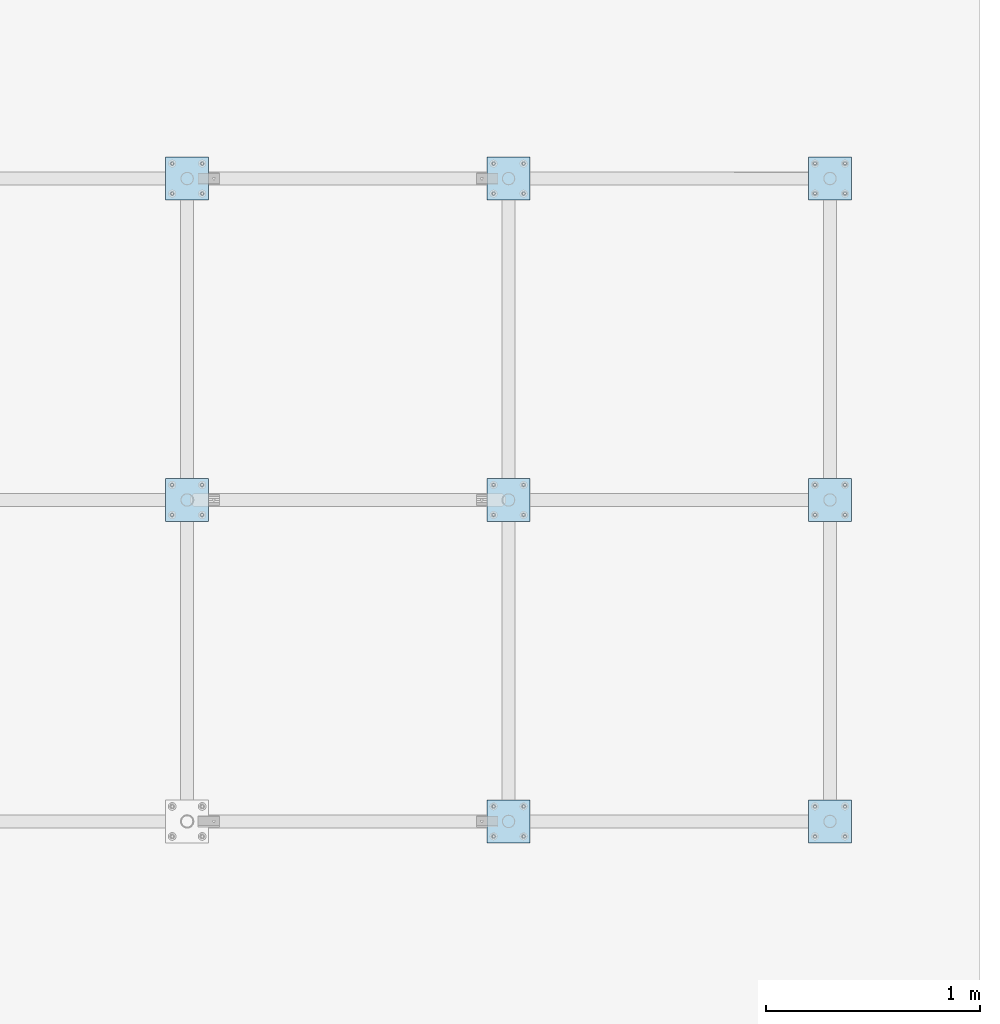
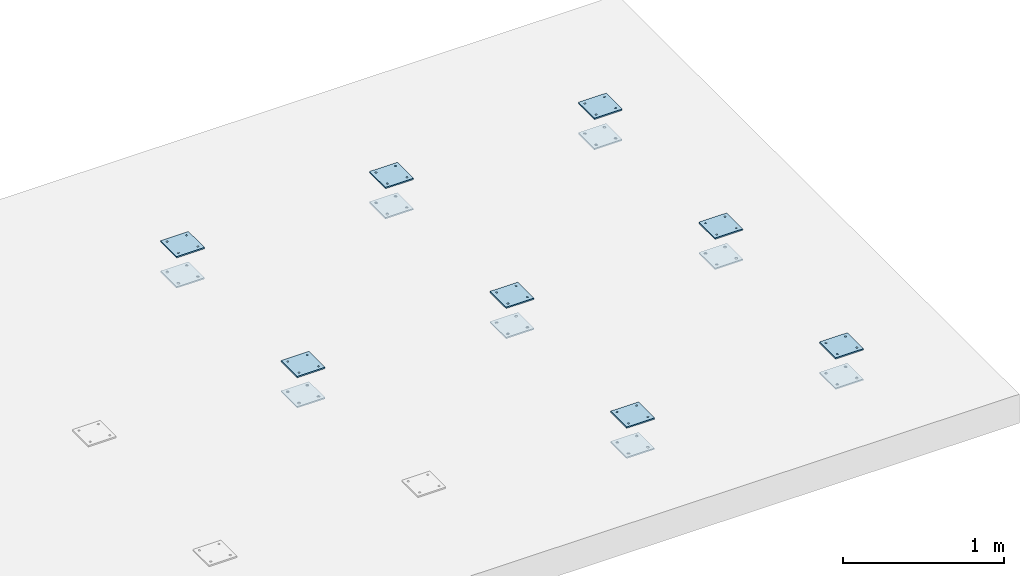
# One storey, part 6 of 30: 16 plates, 64 openings.
"""IFC2X3 building model written with IfcOpenShell, lengths in millimetres."""

from ifc_helpers import new_model, entity, si_unit, converted_unit, frame, frame_2d, origin, origin_with_axes, place, context, project, spatial, polyline, circle, outline, extrude, material, layer, layer_set, element, save


model = new_model("IFC2X3")

# Units and contexts
model_context = context("Model", 3, precision=1e-09, world=origin_with_axes())
ifc_project = project(units=[si_unit("LENGTHUNIT", "METRE", prefix="MILLI"), si_unit("AREAUNIT", "SQUARE_METRE"), si_unit("VOLUMEUNIT", "CUBIC_METRE"), converted_unit("PLANEANGLEUNIT", "DEGREE", entity("IfcPlaneAngleMeasure", 0.01745329), si_unit("PLANEANGLEUNIT", "RADIAN"), dimensions=[0, 0, 0, 0, 0, 0, 0])], contexts=[model_context])

# Site, building, storey
site_placement = place(None, origin_with_axes())
site = spatial("IfcSite", under=ifc_project, at=site_placement, Name="M?nsinger Stra?e, 81477 M?nchen", CompositionType="ELEMENT")
building_placement = place(site_placement, origin_with_axes())
building = spatial("IfcBuilding", under=site, at=building_placement, Name="Struktur 1", CompositionType="ELEMENT")
storey_placement = place(building_placement, origin_with_axes())
storey = spatial("IfcBuildingStorey", under=building, at=storey_placement, Name="Default Storey", CompositionType="ELEMENT", Elevation=0.0)

# Plate, openings
ifc_material = material(Name="S235JR")
ifc_layer = layer(ifc_material, 10.0)
ifc_layer_set = layer_set([ifc_layer], Name="S235JR")
plate_1_placement = place(None, frame((7406.315117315, 2991.2632594, 6515.0), z_axis=(0.0, 0.0, -1.0), x_axis=(1.0, 0.0, 0.0)))
plate_1 = element("IfcPlate", 1, at=plate_1_placement, inside=storey, material=ifc_layer_set, Name="-", ObjectType="-", context=model_context, shape_type="SweptSolid", body=[
    extrude(outline(polyline([(-100.0, -100.0), (100.0, -100.0), (100.0, 100.0), (-100.0, 100.0), (-100.0, -100.0)])), origin_with_axes(), (0.0, 0.0, -1.0), 10.0),
])
opening_1_placement = place(plate_1_placement, frame((60.999, 70.0, 0.5), z_axis=(0.0, 0.0, 1.0), x_axis=(1.0, 0.0, 0.0)))
element("IfcOpeningElement", 2, at=opening_1_placement, cuts=plate_1, ObjectType="Opening", context=model_context, shape_type="SweptSolid", body=[
    extrude(circle(Radius=9.001, at=frame_2d((9.001, 0.0), x_axis=(1.0, 0.0))), origin(), (0.0, 0.0, -1.0), 11.0),
])
opening_2_placement = place(plate_1_placement, frame((-79.001, 70.0, 0.5), z_axis=(0.0, 0.0, 1.0), x_axis=(1.0, 0.0, 0.0)))
element("IfcOpeningElement", 3, at=opening_2_placement, cuts=plate_1, ObjectType="Opening", context=model_context, shape_type="SweptSolid", body=[
    extrude(circle(Radius=9.001, at=frame_2d((9.001, 0.0), x_axis=(1.0, 0.0))), origin(), (0.0, 0.0, -1.0), 11.0),
])
opening_3_placement = place(plate_1_placement, frame((60.999, -70.0, 0.5), z_axis=(0.0, 0.0, 1.0), x_axis=(1.0, 0.0, 0.0)))
element("IfcOpeningElement", 4, at=opening_3_placement, cuts=plate_1, ObjectType="Opening", context=model_context, shape_type="SweptSolid", body=[
    extrude(circle(Radius=9.001, at=frame_2d((9.001, 0.0), x_axis=(1.0, 0.0))), origin(), (0.0, 0.0, -1.0), 11.0),
])
opening_4_placement = place(plate_1_placement, frame((-79.001, -70.0, 0.5), z_axis=(0.0, 0.0, 1.0), x_axis=(1.0, 0.0, 0.0)))
element("IfcOpeningElement", 5, at=opening_4_placement, cuts=plate_1, ObjectType="Opening", context=model_context, shape_type="SweptSolid", body=[
    extrude(circle(Radius=9.001, at=frame_2d((9.001, 0.0), x_axis=(1.0, 0.0))), origin(), (0.0, 0.0, -1.0), 11.0),
])

plate_2_placement = place(None, frame((7406.315117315, 2991.2632594, 6745.0), z_axis=(0.0, 0.0, -1.0), x_axis=(1.0, 0.0, 0.0)))
plate_2 = element("IfcPlate", 6, at=plate_2_placement, inside=storey, material=ifc_layer_set, Name="-", ObjectType="-", context=model_context, shape_type="SweptSolid", body=[
    extrude(outline(polyline([(-100.0, -100.0), (100.0, -100.0), (100.0, 100.0), (-100.0, 100.0), (-100.0, -100.0)])), origin_with_axes(), (0.0, 0.0, -1.0), 10.0),
])
opening_5_placement = place(plate_2_placement, frame((63.749, 70.0, 0.5), z_axis=(0.0, 0.0, 1.0), x_axis=(1.0, 0.0, 0.0)))
element("IfcOpeningElement", 7, at=opening_5_placement, cuts=plate_2, ObjectType="Opening", context=model_context, shape_type="SweptSolid", body=[
    extrude(circle(Radius=6.251, at=frame_2d((6.251, 0.0), x_axis=(1.0, 0.0))), origin(), (0.0, 0.0, -1.0), 11.0),
])
opening_6_placement = place(plate_2_placement, frame((-76.251, 70.0, 0.5), z_axis=(0.0, 0.0, 1.0), x_axis=(1.0, 0.0, 0.0)))
element("IfcOpeningElement", 8, at=opening_6_placement, cuts=plate_2, ObjectType="Opening", context=model_context, shape_type="SweptSolid", body=[
    extrude(circle(Radius=6.251, at=frame_2d((6.251, 0.0), x_axis=(1.0, 0.0))), origin(), (0.0, 0.0, -1.0), 11.0),
])
opening_7_placement = place(plate_2_placement, frame((63.749, -70.0, 0.5), z_axis=(0.0, 0.0, 1.0), x_axis=(1.0, 0.0, 0.0)))
element("IfcOpeningElement", 9, at=opening_7_placement, cuts=plate_2, ObjectType="Opening", context=model_context, shape_type="SweptSolid", body=[
    extrude(circle(Radius=6.251, at=frame_2d((6.251, 0.0), x_axis=(1.0, 0.0))), origin(), (0.0, 0.0, -1.0), 11.0),
])
opening_8_placement = place(plate_2_placement, frame((-76.251, -70.0, 0.5), z_axis=(0.0, 0.0, 1.0), x_axis=(1.0, 0.0, 0.0)))
element("IfcOpeningElement", 10, at=opening_8_placement, cuts=plate_2, ObjectType="Opening", context=model_context, shape_type="SweptSolid", body=[
    extrude(circle(Radius=6.251, at=frame_2d((6.251, 0.0), x_axis=(1.0, 0.0))), origin(), (0.0, 0.0, -1.0), 11.0),
])

plate_3_placement = place(None, frame((8906.315117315, 4491.2632594, 6515.0), z_axis=(0.0, 0.0, 1.0), x_axis=(-1.0, 0.0, 0.0)))
plate_3 = element("IfcPlate", 11, at=plate_3_placement, inside=storey, material=ifc_layer_set, Name="-", ObjectType="-", context=model_context, shape_type="SweptSolid", body=[
    extrude(outline(polyline([(-100.0, -100.0), (100.0, -100.0), (100.0, 100.0), (-100.0, 100.0), (-100.0, -100.0)])), origin_with_axes(), (0.0, 0.0, 1.0), 10.0),
])
opening_9_placement = place(plate_3_placement, frame((-100.0, 100.0, -0.5), z_axis=(0.0, 0.0, 1.0), x_axis=(1.0, 0.0, 0.0)))
element("IfcOpeningElement", 12, at=opening_9_placement, cuts=plate_3, ObjectType="Opening", context=model_context, shape_type="SweptSolid", body=[
    extrude(circle(Radius=9.001, at=frame_2d((170.0, -30.0), x_axis=(1.0, 0.0))), origin(), (0.0, 0.0, 1.0), 11.0),
])
opening_10_placement = place(plate_3_placement, frame((-100.0, 100.0, -0.5), z_axis=(0.0, 0.0, 1.0), x_axis=(1.0, 0.0, 0.0)))
element("IfcOpeningElement", 13, at=opening_10_placement, cuts=plate_3, ObjectType="Opening", context=model_context, shape_type="SweptSolid", body=[
    extrude(circle(Radius=9.001, at=frame_2d((30.0, -30.0), x_axis=(1.0, 0.0))), origin(), (0.0, 0.0, 1.0), 11.0),
])
opening_11_placement = place(plate_3_placement, frame((-100.0, 100.0, -0.5), z_axis=(0.0, 0.0, 1.0), x_axis=(1.0, 0.0, 0.0)))
element("IfcOpeningElement", 14, at=opening_11_placement, cuts=plate_3, ObjectType="Opening", context=model_context, shape_type="SweptSolid", body=[
    extrude(circle(Radius=9.001, at=frame_2d((170.0, -170.0), x_axis=(1.0, 0.0))), origin(), (0.0, 0.0, 1.0), 11.0),
])
opening_12_placement = place(plate_3_placement, frame((-100.0, 100.0, -0.5), z_axis=(0.0, 0.0, 1.0), x_axis=(1.0, 0.0, 0.0)))
element("IfcOpeningElement", 15, at=opening_12_placement, cuts=plate_3, ObjectType="Opening", context=model_context, shape_type="SweptSolid", body=[
    extrude(circle(Radius=9.001, at=frame_2d((30.0, -170.0), x_axis=(1.0, 0.0))), origin(), (0.0, 0.0, 1.0), 11.0),
])

plate_4_placement = place(None, frame((8906.315117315, 4491.2632594, 6745.0), z_axis=(0.0, 0.0, 1.0), x_axis=(-1.0, 0.0, 0.0)))
plate_4 = element("IfcPlate", 16, at=plate_4_placement, inside=storey, material=ifc_layer_set, Name="-", ObjectType="-", context=model_context, shape_type="SweptSolid", body=[
    extrude(outline(polyline([(-100.0, -100.0), (100.0, -100.0), (100.0, 100.0), (-100.0, 100.0), (-100.0, -100.0)])), origin_with_axes(), (0.0, 0.0, 1.0), 10.0),
])
opening_13_placement = place(plate_4_placement, frame((-100.0, 100.0, -0.5), z_axis=(0.0, 0.0, 1.0), x_axis=(1.0, 0.0, 0.0)))
element("IfcOpeningElement", 17, at=opening_13_placement, cuts=plate_4, ObjectType="Opening", context=model_context, shape_type="SweptSolid", body=[
    extrude(circle(Radius=6.251, at=frame_2d((170.0, -30.0), x_axis=(1.0, 0.0))), origin(), (0.0, 0.0, 1.0), 11.0),
])
opening_14_placement = place(plate_4_placement, frame((-100.0, 100.0, -0.5), z_axis=(0.0, 0.0, 1.0), x_axis=(1.0, 0.0, 0.0)))
element("IfcOpeningElement", 18, at=opening_14_placement, cuts=plate_4, ObjectType="Opening", context=model_context, shape_type="SweptSolid", body=[
    extrude(circle(Radius=6.251, at=frame_2d((30.0, -30.0), x_axis=(1.0, 0.0))), origin(), (0.0, 0.0, 1.0), 11.0),
])
opening_15_placement = place(plate_4_placement, frame((-100.0, 100.0, -0.5), z_axis=(0.0, 0.0, 1.0), x_axis=(1.0, 0.0, 0.0)))
element("IfcOpeningElement", 19, at=opening_15_placement, cuts=plate_4, ObjectType="Opening", context=model_context, shape_type="SweptSolid", body=[
    extrude(circle(Radius=6.251, at=frame_2d((170.0, -170.0), x_axis=(1.0, 0.0))), origin(), (0.0, 0.0, 1.0), 11.0),
])
opening_16_placement = place(plate_4_placement, frame((-100.0, 100.0, -0.5), z_axis=(0.0, 0.0, 1.0), x_axis=(1.0, 0.0, 0.0)))
element("IfcOpeningElement", 20, at=opening_16_placement, cuts=plate_4, ObjectType="Opening", context=model_context, shape_type="SweptSolid", body=[
    extrude(circle(Radius=6.251, at=frame_2d((30.0, -170.0), x_axis=(1.0, 0.0))), origin(), (0.0, 0.0, 1.0), 11.0),
])

plate_5_placement = place(None, frame((8906.315117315, 2991.2632594, 6515.0), z_axis=(0.0, 0.0, 1.0), x_axis=(-1.0, 0.0, 0.0)))
plate_5 = element("IfcPlate", 21, at=plate_5_placement, inside=storey, material=ifc_layer_set, Name="-", ObjectType="-", context=model_context, shape_type="SweptSolid", body=[
    extrude(outline(polyline([(-100.0, -100.0), (100.0, -100.0), (100.0, 100.0), (-100.0, 100.0), (-100.0, -100.0)])), origin_with_axes(), (0.0, 0.0, 1.0), 10.0),
])
opening_17_placement = place(plate_5_placement, frame((-100.0, 100.0, -0.5), z_axis=(0.0, 0.0, 1.0), x_axis=(1.0, 0.0, 0.0)))
element("IfcOpeningElement", 22, at=opening_17_placement, cuts=plate_5, ObjectType="Opening", context=model_context, shape_type="SweptSolid", body=[
    extrude(circle(Radius=9.001, at=frame_2d((170.0, -30.0), x_axis=(1.0, 0.0))), origin(), (0.0, 0.0, 1.0), 11.0),
])
opening_18_placement = place(plate_5_placement, frame((-100.0, 100.0, -0.5), z_axis=(0.0, 0.0, 1.0), x_axis=(1.0, 0.0, 0.0)))
element("IfcOpeningElement", 23, at=opening_18_placement, cuts=plate_5, ObjectType="Opening", context=model_context, shape_type="SweptSolid", body=[
    extrude(circle(Radius=9.001, at=frame_2d((30.0, -30.0), x_axis=(1.0, 0.0))), origin(), (0.0, 0.0, 1.0), 11.0),
])
opening_19_placement = place(plate_5_placement, frame((-100.0, 100.0, -0.5), z_axis=(0.0, 0.0, 1.0), x_axis=(1.0, 0.0, 0.0)))
element("IfcOpeningElement", 24, at=opening_19_placement, cuts=plate_5, ObjectType="Opening", context=model_context, shape_type="SweptSolid", body=[
    extrude(circle(Radius=9.001, at=frame_2d((170.0, -170.0), x_axis=(1.0, 0.0))), origin(), (0.0, 0.0, 1.0), 11.0),
])
opening_20_placement = place(plate_5_placement, frame((-100.0, 100.0, -0.5), z_axis=(0.0, 0.0, 1.0), x_axis=(1.0, 0.0, 0.0)))
element("IfcOpeningElement", 25, at=opening_20_placement, cuts=plate_5, ObjectType="Opening", context=model_context, shape_type="SweptSolid", body=[
    extrude(circle(Radius=9.001, at=frame_2d((30.0, -170.0), x_axis=(1.0, 0.0))), origin(), (0.0, 0.0, 1.0), 11.0),
])

plate_6_placement = place(None, frame((8906.315117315, 2991.2632594, 6745.0), z_axis=(0.0, 0.0, 1.0), x_axis=(-1.0, 0.0, 0.0)))
plate_6 = element("IfcPlate", 26, at=plate_6_placement, inside=storey, material=ifc_layer_set, Name="-", ObjectType="-", context=model_context, shape_type="SweptSolid", body=[
    extrude(outline(polyline([(-100.0, -100.0), (100.0, -100.0), (100.0, 100.0), (-100.0, 100.0), (-100.0, -100.0)])), origin_with_axes(), (0.0, 0.0, 1.0), 10.0),
])
opening_21_placement = place(plate_6_placement, frame((-100.0, 100.0, -0.5), z_axis=(0.0, 0.0, 1.0), x_axis=(1.0, 0.0, 0.0)))
element("IfcOpeningElement", 27, at=opening_21_placement, cuts=plate_6, ObjectType="Opening", context=model_context, shape_type="SweptSolid", body=[
    extrude(circle(Radius=6.251, at=frame_2d((170.0, -30.0), x_axis=(1.0, 0.0))), origin(), (0.0, 0.0, 1.0), 11.0),
])
opening_22_placement = place(plate_6_placement, frame((-100.0, 100.0, -0.5), z_axis=(0.0, 0.0, 1.0), x_axis=(1.0, 0.0, 0.0)))
element("IfcOpeningElement", 28, at=opening_22_placement, cuts=plate_6, ObjectType="Opening", context=model_context, shape_type="SweptSolid", body=[
    extrude(circle(Radius=6.251, at=frame_2d((30.0, -30.0), x_axis=(1.0, 0.0))), origin(), (0.0, 0.0, 1.0), 11.0),
])
opening_23_placement = place(plate_6_placement, frame((-100.0, 100.0, -0.5), z_axis=(0.0, 0.0, 1.0), x_axis=(1.0, 0.0, 0.0)))
element("IfcOpeningElement", 29, at=opening_23_placement, cuts=plate_6, ObjectType="Opening", context=model_context, shape_type="SweptSolid", body=[
    extrude(circle(Radius=6.251, at=frame_2d((170.0, -170.0), x_axis=(1.0, 0.0))), origin(), (0.0, 0.0, 1.0), 11.0),
])
opening_24_placement = place(plate_6_placement, frame((-100.0, 100.0, -0.5), z_axis=(0.0, 0.0, 1.0), x_axis=(1.0, 0.0, 0.0)))
element("IfcOpeningElement", 30, at=opening_24_placement, cuts=plate_6, ObjectType="Opening", context=model_context, shape_type="SweptSolid", body=[
    extrude(circle(Radius=6.251, at=frame_2d((30.0, -170.0), x_axis=(1.0, 0.0))), origin(), (0.0, 0.0, 1.0), 11.0),
])

plate_7_placement = place(None, frame((5906.315117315, 4491.2632594, 6515.0), z_axis=(0.0, 0.0, -1.0), x_axis=(0.0, -1.0, 0.0)))
plate_7 = element("IfcPlate", 31, at=plate_7_placement, inside=storey, material=ifc_layer_set, Name="-", ObjectType="-", context=model_context, shape_type="SweptSolid", body=[
    extrude(outline(polyline([(-100.0, -100.0), (100.0, -100.0), (100.0, 100.0), (-100.0, 100.0), (-100.0, -100.0)])), origin_with_axes(), (0.0, 0.0, -1.0), 10.0),
])
opening_25_placement = place(plate_7_placement, frame((60.999, 70.0, 0.5), z_axis=(0.0, 0.0, 1.0), x_axis=(1.0, 0.0, 0.0)))
element("IfcOpeningElement", 32, at=opening_25_placement, cuts=plate_7, ObjectType="Opening", context=model_context, shape_type="SweptSolid", body=[
    extrude(circle(Radius=9.001, at=frame_2d((9.001, 0.0), x_axis=(1.0, 0.0))), origin(), (0.0, 0.0, -1.0), 11.0),
])
opening_26_placement = place(plate_7_placement, frame((-79.001, 70.0, 0.5), z_axis=(0.0, 0.0, 1.0), x_axis=(1.0, 0.0, 0.0)))
element("IfcOpeningElement", 33, at=opening_26_placement, cuts=plate_7, ObjectType="Opening", context=model_context, shape_type="SweptSolid", body=[
    extrude(circle(Radius=9.001, at=frame_2d((9.001, 0.0), x_axis=(1.0, 0.0))), origin(), (0.0, 0.0, -1.0), 11.0),
])
opening_27_placement = place(plate_7_placement, frame((60.999, -70.0, 0.5), z_axis=(0.0, 0.0, 1.0), x_axis=(1.0, 0.0, 0.0)))
element("IfcOpeningElement", 34, at=opening_27_placement, cuts=plate_7, ObjectType="Opening", context=model_context, shape_type="SweptSolid", body=[
    extrude(circle(Radius=9.001, at=frame_2d((9.001, 0.0), x_axis=(1.0, 0.0))), origin(), (0.0, 0.0, -1.0), 11.0),
])
opening_28_placement = place(plate_7_placement, frame((-79.001, -70.0, 0.5), z_axis=(0.0, 0.0, 1.0), x_axis=(1.0, 0.0, 0.0)))
element("IfcOpeningElement", 35, at=opening_28_placement, cuts=plate_7, ObjectType="Opening", context=model_context, shape_type="SweptSolid", body=[
    extrude(circle(Radius=9.001, at=frame_2d((9.001, 0.0), x_axis=(1.0, 0.0))), origin(), (0.0, 0.0, -1.0), 11.0),
])

plate_8_placement = place(None, frame((5906.315117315, 4491.2632594, 6745.0), z_axis=(0.0, 0.0, -1.0), x_axis=(0.0, -1.0, 0.0)))
plate_8 = element("IfcPlate", 36, at=plate_8_placement, inside=storey, material=ifc_layer_set, Name="-", ObjectType="-", context=model_context, shape_type="SweptSolid", body=[
    extrude(outline(polyline([(-100.0, -100.0), (100.0, -100.0), (100.0, 100.0), (-100.0, 100.0), (-100.0, -100.0)])), origin_with_axes(), (0.0, 0.0, -1.0), 10.0),
])
opening_29_placement = place(plate_8_placement, frame((63.749, 70.0, 0.5), z_axis=(0.0, 0.0, 1.0), x_axis=(1.0, 0.0, 0.0)))
element("IfcOpeningElement", 37, at=opening_29_placement, cuts=plate_8, ObjectType="Opening", context=model_context, shape_type="SweptSolid", body=[
    extrude(circle(Radius=6.251, at=frame_2d((6.251, 0.0), x_axis=(1.0, 0.0))), origin(), (0.0, 0.0, -1.0), 11.0),
])
opening_30_placement = place(plate_8_placement, frame((-76.251, 70.0, 0.5), z_axis=(0.0, 0.0, 1.0), x_axis=(1.0, 0.0, 0.0)))
element("IfcOpeningElement", 38, at=opening_30_placement, cuts=plate_8, ObjectType="Opening", context=model_context, shape_type="SweptSolid", body=[
    extrude(circle(Radius=6.251, at=frame_2d((6.251, 0.0), x_axis=(1.0, 0.0))), origin(), (0.0, 0.0, -1.0), 11.0),
])
opening_31_placement = place(plate_8_placement, frame((63.749, -70.0, 0.5), z_axis=(0.0, 0.0, 1.0), x_axis=(1.0, 0.0, 0.0)))
element("IfcOpeningElement", 39, at=opening_31_placement, cuts=plate_8, ObjectType="Opening", context=model_context, shape_type="SweptSolid", body=[
    extrude(circle(Radius=6.251, at=frame_2d((6.251, 0.0), x_axis=(1.0, 0.0))), origin(), (0.0, 0.0, -1.0), 11.0),
])
opening_32_placement = place(plate_8_placement, frame((-76.251, -70.0, 0.5), z_axis=(0.0, 0.0, 1.0), x_axis=(1.0, 0.0, 0.0)))
element("IfcOpeningElement", 40, at=opening_32_placement, cuts=plate_8, ObjectType="Opening", context=model_context, shape_type="SweptSolid", body=[
    extrude(circle(Radius=6.251, at=frame_2d((6.251, 0.0), x_axis=(1.0, 0.0))), origin(), (0.0, 0.0, -1.0), 11.0),
])

plate_9_placement = place(None, frame((5906.315117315, 2991.2632594, 6515.0), z_axis=(0.0, 0.0, -1.0), x_axis=(1.0, 0.0, 0.0)))
plate_9 = element("IfcPlate", 41, at=plate_9_placement, inside=storey, material=ifc_layer_set, Name="-", ObjectType="-", context=model_context, shape_type="SweptSolid", body=[
    extrude(outline(polyline([(-100.0, -100.0), (100.0, -100.0), (100.0, 100.0), (-100.0, 100.0), (-100.0, -100.0)])), origin_with_axes(), (0.0, 0.0, -1.0), 10.0),
])
opening_33_placement = place(plate_9_placement, frame((60.999, 70.0, 0.5), z_axis=(0.0, 0.0, 1.0), x_axis=(1.0, 0.0, 0.0)))
element("IfcOpeningElement", 42, at=opening_33_placement, cuts=plate_9, ObjectType="Opening", context=model_context, shape_type="SweptSolid", body=[
    extrude(circle(Radius=9.001, at=frame_2d((9.001, 0.0), x_axis=(1.0, 0.0))), origin(), (0.0, 0.0, -1.0), 11.0),
])
opening_34_placement = place(plate_9_placement, frame((-79.001, 70.0, 0.5), z_axis=(0.0, 0.0, 1.0), x_axis=(1.0, 0.0, 0.0)))
element("IfcOpeningElement", 43, at=opening_34_placement, cuts=plate_9, ObjectType="Opening", context=model_context, shape_type="SweptSolid", body=[
    extrude(circle(Radius=9.001, at=frame_2d((9.001, 0.0), x_axis=(1.0, 0.0))), origin(), (0.0, 0.0, -1.0), 11.0),
])
opening_35_placement = place(plate_9_placement, frame((60.999, -70.0, 0.5), z_axis=(0.0, 0.0, 1.0), x_axis=(1.0, 0.0, 0.0)))
element("IfcOpeningElement", 44, at=opening_35_placement, cuts=plate_9, ObjectType="Opening", context=model_context, shape_type="SweptSolid", body=[
    extrude(circle(Radius=9.001, at=frame_2d((9.001, 0.0), x_axis=(1.0, 0.0))), origin(), (0.0, 0.0, -1.0), 11.0),
])
opening_36_placement = place(plate_9_placement, frame((-79.001, -70.0, 0.5), z_axis=(0.0, 0.0, 1.0), x_axis=(1.0, 0.0, 0.0)))
element("IfcOpeningElement", 45, at=opening_36_placement, cuts=plate_9, ObjectType="Opening", context=model_context, shape_type="SweptSolid", body=[
    extrude(circle(Radius=9.001, at=frame_2d((9.001, 0.0), x_axis=(1.0, 0.0))), origin(), (0.0, 0.0, -1.0), 11.0),
])

plate_10_placement = place(None, frame((5906.315117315, 2991.2632594, 6745.0), z_axis=(0.0, 0.0, -1.0), x_axis=(1.0, 0.0, 0.0)))
plate_10 = element("IfcPlate", 46, at=plate_10_placement, inside=storey, material=ifc_layer_set, Name="-", ObjectType="-", context=model_context, shape_type="SweptSolid", body=[
    extrude(outline(polyline([(-100.0, -100.0), (100.0, -100.0), (100.0, 100.0), (-100.0, 100.0), (-100.0, -100.0)])), origin_with_axes(), (0.0, 0.0, -1.0), 10.0),
])
opening_37_placement = place(plate_10_placement, frame((63.749, 70.0, 0.5), z_axis=(0.0, 0.0, 1.0), x_axis=(1.0, 0.0, 0.0)))
element("IfcOpeningElement", 47, at=opening_37_placement, cuts=plate_10, ObjectType="Opening", context=model_context, shape_type="SweptSolid", body=[
    extrude(circle(Radius=6.251, at=frame_2d((6.251, 0.0), x_axis=(1.0, 0.0))), origin(), (0.0, 0.0, -1.0), 11.0),
])
opening_38_placement = place(plate_10_placement, frame((-76.251, 70.0, 0.5), z_axis=(0.0, 0.0, 1.0), x_axis=(1.0, 0.0, 0.0)))
element("IfcOpeningElement", 48, at=opening_38_placement, cuts=plate_10, ObjectType="Opening", context=model_context, shape_type="SweptSolid", body=[
    extrude(circle(Radius=6.251, at=frame_2d((6.251, 0.0), x_axis=(1.0, 0.0))), origin(), (0.0, 0.0, -1.0), 11.0),
])
opening_39_placement = place(plate_10_placement, frame((63.749, -70.0, 0.5), z_axis=(0.0, 0.0, 1.0), x_axis=(1.0, 0.0, 0.0)))
element("IfcOpeningElement", 49, at=opening_39_placement, cuts=plate_10, ObjectType="Opening", context=model_context, shape_type="SweptSolid", body=[
    extrude(circle(Radius=6.251, at=frame_2d((6.251, 0.0), x_axis=(1.0, 0.0))), origin(), (0.0, 0.0, -1.0), 11.0),
])
opening_40_placement = place(plate_10_placement, frame((-76.251, -70.0, 0.5), z_axis=(0.0, 0.0, 1.0), x_axis=(1.0, 0.0, 0.0)))
element("IfcOpeningElement", 50, at=opening_40_placement, cuts=plate_10, ObjectType="Opening", context=model_context, shape_type="SweptSolid", body=[
    extrude(circle(Radius=6.251, at=frame_2d((6.251, 0.0), x_axis=(1.0, 0.0))), origin(), (0.0, 0.0, -1.0), 11.0),
])

plate_11_placement = place(None, frame((7406.315117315, 1491.2632594, 6745.0), z_axis=(0.0, 0.0, 1.0), x_axis=(0.0, 1.0, 0.0)))
plate_11 = element("IfcPlate", 51, at=plate_11_placement, inside=storey, material=ifc_layer_set, Name="-", ObjectType="-", context=model_context, shape_type="SweptSolid", body=[
    extrude(outline(polyline([(-100.0, -100.0), (100.0, -100.0), (100.0, 100.0), (-100.0, 100.0), (-100.0, -100.0)])), origin_with_axes(), (0.0, 0.0, 1.0), 10.0),
])
opening_41_placement = place(plate_11_placement, frame((-100.0, 100.0, -0.5), z_axis=(0.0, 0.0, 1.0), x_axis=(1.0, 0.0, 0.0)))
element("IfcOpeningElement", 52, at=opening_41_placement, cuts=plate_11, ObjectType="Opening", context=model_context, shape_type="SweptSolid", body=[
    extrude(circle(Radius=6.251, at=frame_2d((170.0, -30.0), x_axis=(1.0, 0.0))), origin(), (0.0, 0.0, 1.0), 11.0),
])
opening_42_placement = place(plate_11_placement, frame((-100.0, 100.0, -0.5), z_axis=(0.0, 0.0, 1.0), x_axis=(1.0, 0.0, 0.0)))
element("IfcOpeningElement", 53, at=opening_42_placement, cuts=plate_11, ObjectType="Opening", context=model_context, shape_type="SweptSolid", body=[
    extrude(circle(Radius=6.251, at=frame_2d((30.0, -30.0), x_axis=(1.0, 0.0))), origin(), (0.0, 0.0, 1.0), 11.0),
])
opening_43_placement = place(plate_11_placement, frame((-100.0, 100.0, -0.5), z_axis=(0.0, 0.0, 1.0), x_axis=(1.0, 0.0, 0.0)))
element("IfcOpeningElement", 54, at=opening_43_placement, cuts=plate_11, ObjectType="Opening", context=model_context, shape_type="SweptSolid", body=[
    extrude(circle(Radius=6.251, at=frame_2d((170.0, -170.0), x_axis=(1.0, 0.0))), origin(), (0.0, 0.0, 1.0), 11.0),
])
opening_44_placement = place(plate_11_placement, frame((-100.0, 100.0, -0.5), z_axis=(0.0, 0.0, 1.0), x_axis=(1.0, 0.0, 0.0)))
element("IfcOpeningElement", 55, at=opening_44_placement, cuts=plate_11, ObjectType="Opening", context=model_context, shape_type="SweptSolid", body=[
    extrude(circle(Radius=6.251, at=frame_2d((30.0, -170.0), x_axis=(1.0, 0.0))), origin(), (0.0, 0.0, 1.0), 11.0),
])

plate_12_placement = place(None, frame((7406.315117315, 1491.2632594, 6515.0), z_axis=(0.0, 0.0, 1.0), x_axis=(0.0, 1.0, 0.0)))
plate_12 = element("IfcPlate", 56, at=plate_12_placement, inside=storey, material=ifc_layer_set, Name="-", ObjectType="-", context=model_context, shape_type="SweptSolid", body=[
    extrude(outline(polyline([(-100.0, -100.0), (100.0, -100.0), (100.0, 100.0), (-100.0, 100.0), (-100.0, -100.0)])), origin_with_axes(), (0.0, 0.0, 1.0), 10.0),
])
opening_45_placement = place(plate_12_placement, frame((-100.0, 100.0, -0.5), z_axis=(0.0, 0.0, 1.0), x_axis=(1.0, 0.0, 0.0)))
element("IfcOpeningElement", 57, at=opening_45_placement, cuts=plate_12, ObjectType="Opening", context=model_context, shape_type="SweptSolid", body=[
    extrude(circle(Radius=9.001, at=frame_2d((170.0, -30.0), x_axis=(1.0, 0.0))), origin(), (0.0, 0.0, 1.0), 11.0),
])
opening_46_placement = place(plate_12_placement, frame((-100.0, 100.0, -0.5), z_axis=(0.0, 0.0, 1.0), x_axis=(1.0, 0.0, 0.0)))
element("IfcOpeningElement", 58, at=opening_46_placement, cuts=plate_12, ObjectType="Opening", context=model_context, shape_type="SweptSolid", body=[
    extrude(circle(Radius=9.001, at=frame_2d((30.0, -30.0), x_axis=(1.0, 0.0))), origin(), (0.0, 0.0, 1.0), 11.0),
])
opening_47_placement = place(plate_12_placement, frame((-100.0, 100.0, -0.5), z_axis=(0.0, 0.0, 1.0), x_axis=(1.0, 0.0, 0.0)))
element("IfcOpeningElement", 59, at=opening_47_placement, cuts=plate_12, ObjectType="Opening", context=model_context, shape_type="SweptSolid", body=[
    extrude(circle(Radius=9.001, at=frame_2d((170.0, -170.0), x_axis=(1.0, 0.0))), origin(), (0.0, 0.0, 1.0), 11.0),
])
opening_48_placement = place(plate_12_placement, frame((-100.0, 100.0, -0.5), z_axis=(0.0, 0.0, 1.0), x_axis=(1.0, 0.0, 0.0)))
element("IfcOpeningElement", 60, at=opening_48_placement, cuts=plate_12, ObjectType="Opening", context=model_context, shape_type="SweptSolid", body=[
    extrude(circle(Radius=9.001, at=frame_2d((30.0, -170.0), x_axis=(1.0, 0.0))), origin(), (0.0, 0.0, 1.0), 11.0),
])

plate_13_placement = place(None, frame((7406.315117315, 4491.2632594, 6515.0), z_axis=(0.0, 0.0, -1.0), x_axis=(0.0, -1.0, 0.0)))
plate_13 = element("IfcPlate", 61, at=plate_13_placement, inside=storey, material=ifc_layer_set, Name="-", ObjectType="-", context=model_context, shape_type="SweptSolid", body=[
    extrude(outline(polyline([(-100.0, -100.0), (100.0, -100.0), (100.0, 100.0), (-100.0, 100.0), (-100.0, -100.0)])), origin_with_axes(), (0.0, 0.0, -1.0), 10.0),
])
opening_49_placement = place(plate_13_placement, frame((60.999, 70.0, 0.5), z_axis=(0.0, 0.0, 1.0), x_axis=(1.0, 0.0, 0.0)))
element("IfcOpeningElement", 62, at=opening_49_placement, cuts=plate_13, ObjectType="Opening", context=model_context, shape_type="SweptSolid", body=[
    extrude(circle(Radius=9.001, at=frame_2d((9.001, 0.0), x_axis=(1.0, 0.0))), origin(), (0.0, 0.0, -1.0), 11.0),
])
opening_50_placement = place(plate_13_placement, frame((-79.001, 70.0, 0.5), z_axis=(0.0, 0.0, 1.0), x_axis=(1.0, 0.0, 0.0)))
element("IfcOpeningElement", 63, at=opening_50_placement, cuts=plate_13, ObjectType="Opening", context=model_context, shape_type="SweptSolid", body=[
    extrude(circle(Radius=9.001, at=frame_2d((9.001, 0.0), x_axis=(1.0, 0.0))), origin(), (0.0, 0.0, -1.0), 11.0),
])
opening_51_placement = place(plate_13_placement, frame((60.999, -70.0, 0.5), z_axis=(0.0, 0.0, 1.0), x_axis=(1.0, 0.0, 0.0)))
element("IfcOpeningElement", 64, at=opening_51_placement, cuts=plate_13, ObjectType="Opening", context=model_context, shape_type="SweptSolid", body=[
    extrude(circle(Radius=9.001, at=frame_2d((9.001, 0.0), x_axis=(1.0, 0.0))), origin(), (0.0, 0.0, -1.0), 11.0),
])
opening_52_placement = place(plate_13_placement, frame((-79.001, -70.0, 0.5), z_axis=(0.0, 0.0, 1.0), x_axis=(1.0, 0.0, 0.0)))
element("IfcOpeningElement", 65, at=opening_52_placement, cuts=plate_13, ObjectType="Opening", context=model_context, shape_type="SweptSolid", body=[
    extrude(circle(Radius=9.001, at=frame_2d((9.001, 0.0), x_axis=(1.0, 0.0))), origin(), (0.0, 0.0, -1.0), 11.0),
])

plate_14_placement = place(None, frame((7406.315117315, 4491.2632594, 6745.0), z_axis=(0.0, 0.0, -1.0), x_axis=(0.0, -1.0, 0.0)))
plate_14 = element("IfcPlate", 66, at=plate_14_placement, inside=storey, material=ifc_layer_set, Name="-", ObjectType="-", context=model_context, shape_type="SweptSolid", body=[
    extrude(outline(polyline([(-100.0, -100.0), (100.0, -100.0), (100.0, 100.0), (-100.0, 100.0), (-100.0, -100.0)])), origin_with_axes(), (0.0, 0.0, -1.0), 10.0),
])
opening_53_placement = place(plate_14_placement, frame((63.749, 70.0, 0.5), z_axis=(0.0, 0.0, 1.0), x_axis=(1.0, 0.0, 0.0)))
element("IfcOpeningElement", 67, at=opening_53_placement, cuts=plate_14, ObjectType="Opening", context=model_context, shape_type="SweptSolid", body=[
    extrude(circle(Radius=6.251, at=frame_2d((6.251, 0.0), x_axis=(1.0, 0.0))), origin(), (0.0, 0.0, -1.0), 11.0),
])
opening_54_placement = place(plate_14_placement, frame((-76.251, 70.0, 0.5), z_axis=(0.0, 0.0, 1.0), x_axis=(1.0, 0.0, 0.0)))
element("IfcOpeningElement", 68, at=opening_54_placement, cuts=plate_14, ObjectType="Opening", context=model_context, shape_type="SweptSolid", body=[
    extrude(circle(Radius=6.251, at=frame_2d((6.251, 0.0), x_axis=(1.0, 0.0))), origin(), (0.0, 0.0, -1.0), 11.0),
])
opening_55_placement = place(plate_14_placement, frame((63.749, -70.0, 0.5), z_axis=(0.0, 0.0, 1.0), x_axis=(1.0, 0.0, 0.0)))
element("IfcOpeningElement", 69, at=opening_55_placement, cuts=plate_14, ObjectType="Opening", context=model_context, shape_type="SweptSolid", body=[
    extrude(circle(Radius=6.251, at=frame_2d((6.251, 0.0), x_axis=(1.0, 0.0))), origin(), (0.0, 0.0, -1.0), 11.0),
])
opening_56_placement = place(plate_14_placement, frame((-76.251, -70.0, 0.5), z_axis=(0.0, 0.0, 1.0), x_axis=(1.0, 0.0, 0.0)))
element("IfcOpeningElement", 70, at=opening_56_placement, cuts=plate_14, ObjectType="Opening", context=model_context, shape_type="SweptSolid", body=[
    extrude(circle(Radius=6.251, at=frame_2d((6.251, 0.0), x_axis=(1.0, 0.0))), origin(), (0.0, 0.0, -1.0), 11.0),
])

plate_15_placement = place(None, frame((8906.315117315, 1491.2632594, 6745.0), z_axis=(0.0, 0.0, -1.0), x_axis=(-1.0, 0.0, 0.0)))
plate_15 = element("IfcPlate", 71, at=plate_15_placement, inside=storey, material=ifc_layer_set, Name="-", ObjectType="-", context=model_context, shape_type="SweptSolid", body=[
    extrude(outline(polyline([(-100.0, -100.0), (100.0, -100.0), (100.0, 100.0), (-100.0, 100.0), (-100.0, -100.0)])), origin_with_axes(), (0.0, 0.0, -1.0), 10.0),
])
opening_57_placement = place(plate_15_placement, frame((63.749, 70.0, 0.5), z_axis=(0.0, 0.0, 1.0), x_axis=(1.0, 0.0, 0.0)))
element("IfcOpeningElement", 72, at=opening_57_placement, cuts=plate_15, ObjectType="Opening", context=model_context, shape_type="SweptSolid", body=[
    extrude(circle(Radius=6.251, at=frame_2d((6.251, 0.0), x_axis=(1.0, 0.0))), origin(), (0.0, 0.0, -1.0), 11.0),
])
opening_58_placement = place(plate_15_placement, frame((-76.251, 70.0, 0.5), z_axis=(0.0, 0.0, 1.0), x_axis=(1.0, 0.0, 0.0)))
element("IfcOpeningElement", 73, at=opening_58_placement, cuts=plate_15, ObjectType="Opening", context=model_context, shape_type="SweptSolid", body=[
    extrude(circle(Radius=6.251, at=frame_2d((6.251, 0.0), x_axis=(1.0, 0.0))), origin(), (0.0, 0.0, -1.0), 11.0),
])
opening_59_placement = place(plate_15_placement, frame((63.749, -70.0, 0.5), z_axis=(0.0, 0.0, 1.0), x_axis=(1.0, 0.0, 0.0)))
element("IfcOpeningElement", 74, at=opening_59_placement, cuts=plate_15, ObjectType="Opening", context=model_context, shape_type="SweptSolid", body=[
    extrude(circle(Radius=6.251, at=frame_2d((6.251, 0.0), x_axis=(1.0, 0.0))), origin(), (0.0, 0.0, -1.0), 11.0),
])
opening_60_placement = place(plate_15_placement, frame((-76.251, -70.0, 0.5), z_axis=(0.0, 0.0, 1.0), x_axis=(1.0, 0.0, 0.0)))
element("IfcOpeningElement", 75, at=opening_60_placement, cuts=plate_15, ObjectType="Opening", context=model_context, shape_type="SweptSolid", body=[
    extrude(circle(Radius=6.251, at=frame_2d((6.251, 0.0), x_axis=(1.0, 0.0))), origin(), (0.0, 0.0, -1.0), 11.0),
])

plate_16_placement = place(None, frame((8906.315117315, 1491.2632594, 6515.0), z_axis=(0.0, 0.0, -1.0), x_axis=(-1.0, 0.0, 0.0)))
plate_16 = element("IfcPlate", 76, at=plate_16_placement, inside=storey, material=ifc_layer_set, Name="-", ObjectType="-", context=model_context, shape_type="SweptSolid", body=[
    extrude(outline(polyline([(-100.0, -100.0), (100.0, -100.0), (100.0, 100.0), (-100.0, 100.0), (-100.0, -100.0)])), origin_with_axes(), (0.0, 0.0, -1.0), 10.0),
])
opening_61_placement = place(plate_16_placement, frame((60.999, 70.0, 0.5), z_axis=(0.0, 0.0, 1.0), x_axis=(1.0, 0.0, 0.0)))
element("IfcOpeningElement", 77, at=opening_61_placement, cuts=plate_16, ObjectType="Opening", context=model_context, shape_type="SweptSolid", body=[
    extrude(circle(Radius=9.001, at=frame_2d((9.001, 0.0), x_axis=(1.0, 0.0))), origin(), (0.0, 0.0, -1.0), 11.0),
])
opening_62_placement = place(plate_16_placement, frame((-79.001, 70.0, 0.5), z_axis=(0.0, 0.0, 1.0), x_axis=(1.0, 0.0, 0.0)))
element("IfcOpeningElement", 78, at=opening_62_placement, cuts=plate_16, ObjectType="Opening", context=model_context, shape_type="SweptSolid", body=[
    extrude(circle(Radius=9.001, at=frame_2d((9.001, 0.0), x_axis=(1.0, 0.0))), origin(), (0.0, 0.0, -1.0), 11.0),
])
opening_63_placement = place(plate_16_placement, frame((60.999, -70.0, 0.5), z_axis=(0.0, 0.0, 1.0), x_axis=(1.0, 0.0, 0.0)))
element("IfcOpeningElement", 79, at=opening_63_placement, cuts=plate_16, ObjectType="Opening", context=model_context, shape_type="SweptSolid", body=[
    extrude(circle(Radius=9.001, at=frame_2d((9.001, 0.0), x_axis=(1.0, 0.0))), origin(), (0.0, 0.0, -1.0), 11.0),
])
opening_64_placement = place(plate_16_placement, frame((-79.001, -70.0, 0.5), z_axis=(0.0, 0.0, 1.0), x_axis=(1.0, 0.0, 0.0)))
element("IfcOpeningElement", 80, at=opening_64_placement, cuts=plate_16, ObjectType="Opening", context=model_context, shape_type="SweptSolid", body=[
    extrude(circle(Radius=9.001, at=frame_2d((9.001, 0.0), x_axis=(1.0, 0.0))), origin(), (0.0, 0.0, -1.0), 11.0),
])

save(model, "model.ifc")
